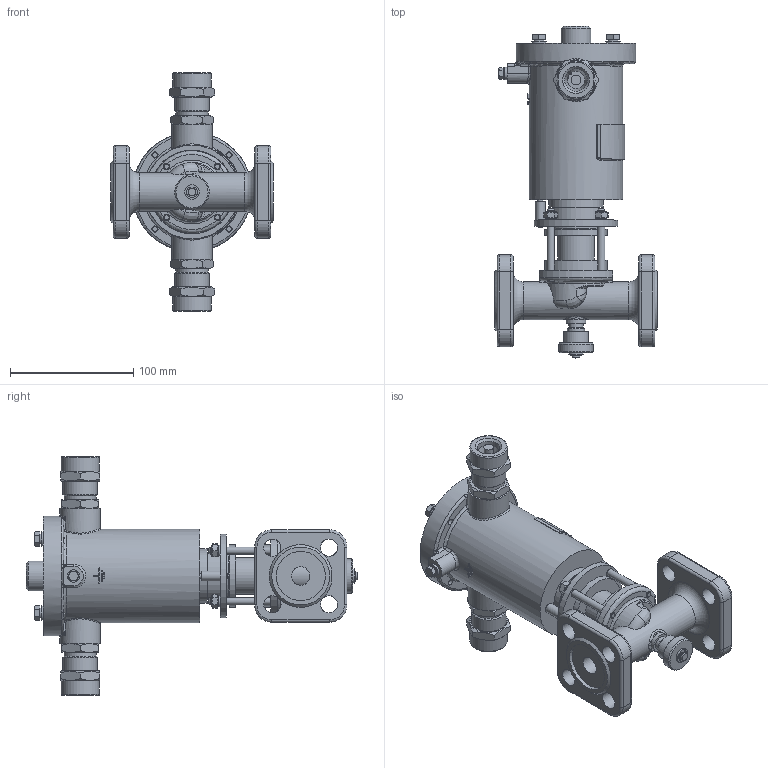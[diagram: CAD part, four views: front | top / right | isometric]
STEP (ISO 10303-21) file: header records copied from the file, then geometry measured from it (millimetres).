
FILE_DESCRIPTION(('STEP AP203'), '1');
FILE_NAME('ÑÅÍÑ DN15PN25-Â-ÑÂ.stp', '2018-09-19T08:44:20', ('Îðëîâ Å.Â.'), ('ÎÎÎ ÍÏÏ Ñåíñîð'), 'ASCON STEP Converter 1.3', 'Kompas 3D', '');
FILE_SCHEMA(('CONFIG_CONTROL_DESIGN','SUPPORT_RESOURCE_SCHEMA'));
Length unit declared in the file: millimetre
Products named in the file (1): 48
Bounding box: 132 x 269.5 x 194 mm (x, y, z)
Volume: 666257.9 mm3; surface area: 217019.5 mm2
Topology: 3 solids, 18 shells, 1988 faces, 5262 edges, 3420 vertices
Faces by surface type: cylinder 1023, plane 738, cone 131, torus 46, bspline 34, extrusion 16
Full cylindrical faces by diameter (mm): 2.459 x4, 4 x8, 4.134 x1, 4.5 x2, 4.917 x4, 5 x2, 5.1 x1, 6 x16, 6.1 x1, 6.3 x2, 6.4 x1, 6.5 x11, 8 x7, 9 x1, 10 x3, 11 x1, 11.5 x1, 12 x5, 12.376 x1, 13 x2, 14 x9, 15 x4, 16 x1, 16.5 x1, 18.5 x1, 18.632 x2, 20 x3, 21 x1, 22 x2, 22.376 x2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
Entity records: 76190 total; most frequent: CARTESIAN_POINT 25635, DIRECTION 11002, ORIENTED_EDGE 10452, EDGE_CURVE 5226, AXIS2_PLACEMENT_3D 4246, VERTEX_POINT 3410, VECTOR 2510, LINE 2494
